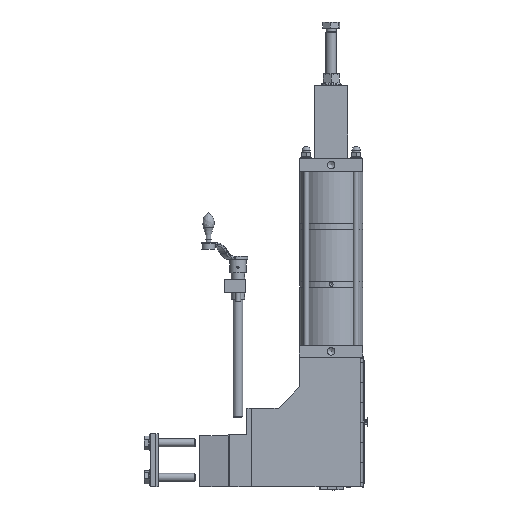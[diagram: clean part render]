
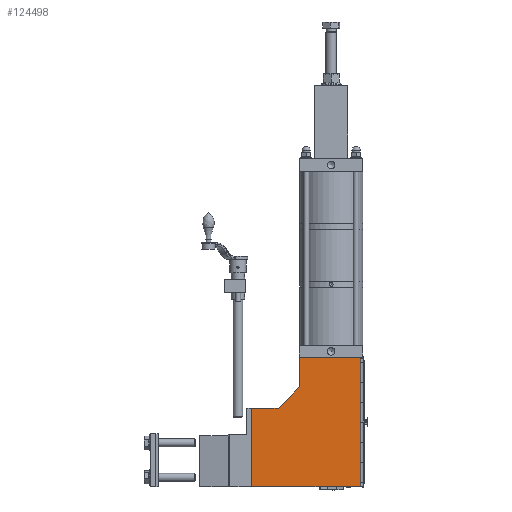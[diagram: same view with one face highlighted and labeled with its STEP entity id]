
A CAD part, left-side view. The second image highlights one B-rep face of the part: STEP entity #124498.
In plain terms, the highlighted planar face has unit normal (-1, 0, 0).
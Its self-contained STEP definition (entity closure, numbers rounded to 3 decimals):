
#8946=LINE('',#161729,#19837);
#9098=LINE('',#162103,#19989);
#9185=LINE('',#162417,#20076);
#9186=LINE('',#162419,#20077);
#9187=LINE('',#162421,#20078);
#9188=LINE('',#162423,#20079);
#9189=LINE('',#162424,#20080);
#19837=VECTOR('',#138497,10.);
#19989=VECTOR('',#138797,10.);
#20076=VECTOR('',#139124,10.);
#20077=VECTOR('',#139125,10.);
#20078=VECTOR('',#139126,10.);
#20079=VECTOR('',#139127,10.);
#20080=VECTOR('',#139128,10.);
#31857=FACE_OUTER_BOUND('',#38675,.T.);
#38675=EDGE_LOOP('',(#79414,#79415,#79416,#79417,#79418,#79419,#79420));
#48005=VERTEX_POINT('',#161726);
#48006=VERTEX_POINT('',#161728);
#48154=VERTEX_POINT('',#162101);
#48261=VERTEX_POINT('',#162416);
#48262=VERTEX_POINT('',#162418);
#48263=VERTEX_POINT('',#162420);
#48264=VERTEX_POINT('',#162422);
#60337=EDGE_CURVE('',#48006,#48005,#8946,.T.);
#60522=EDGE_CURVE('',#48154,#48005,#9098,.T.);
#60674=EDGE_CURVE('',#48261,#48154,#9185,.T.);
#60675=EDGE_CURVE('',#48262,#48261,#9186,.T.);
#60676=EDGE_CURVE('',#48263,#48262,#9187,.T.);
#60677=EDGE_CURVE('',#48264,#48263,#9188,.T.);
#60678=EDGE_CURVE('',#48006,#48264,#9189,.T.);
#79414=ORIENTED_EDGE('',*,*,#60337,.T.);
#79415=ORIENTED_EDGE('',*,*,#60522,.F.);
#79416=ORIENTED_EDGE('',*,*,#60674,.F.);
#79417=ORIENTED_EDGE('',*,*,#60675,.F.);
#79418=ORIENTED_EDGE('',*,*,#60676,.F.);
#79419=ORIENTED_EDGE('',*,*,#60677,.F.);
#79420=ORIENTED_EDGE('',*,*,#60678,.F.);
#114464=PLANE('',#132151);
#124498=ADVANCED_FACE('',(#31857),#114464,.T.);
#132151=AXIS2_PLACEMENT_3D('',#162415,#139122,#139123);
#138497=DIRECTION('',(0.,0.,1.));
#138797=DIRECTION('',(0.,-1.,0.));
#139122=DIRECTION('center_axis',(-1.,0.,0.));
#139123=DIRECTION('ref_axis',(0.,-1.,0.));
#139124=DIRECTION('',(0.,0.,1.));
#139125=DIRECTION('',(0.,-0.707,0.707));
#139126=DIRECTION('',(0.,-1.,0.));
#139127=DIRECTION('',(0.,0.,1.));
#139128=DIRECTION('',(0.,1.,0.));
#161726=CARTESIAN_POINT('',(-47.5,-164.,195.));
#161728=CARTESIAN_POINT('',(-47.5,-164.,0.));
#161729=CARTESIAN_POINT('',(-47.5,-164.,142.175));
#162101=CARTESIAN_POINT('',(-47.5,-72.5,195.));
#162103=CARTESIAN_POINT('',(-47.5,-72.5,195.));
#162415=CARTESIAN_POINT('Origin',(-47.5,-91.651,89.349));
#162416=CARTESIAN_POINT('',(-47.5,-72.5,150.5));
#162417=CARTESIAN_POINT('',(-47.5,-72.5,150.5));
#162418=CARTESIAN_POINT('',(-47.5,-40.,118.));
#162419=CARTESIAN_POINT('',(-47.5,-40.,118.));
#162420=CARTESIAN_POINT('',(-47.5,0.,118.));
#162421=CARTESIAN_POINT('',(-47.5,0.,118.));
#162422=CARTESIAN_POINT('',(-47.5,0.,0.));
#162423=CARTESIAN_POINT('',(-47.5,0.,0.));
#162424=CARTESIAN_POINT('',(-47.5,-167.5,0.));
